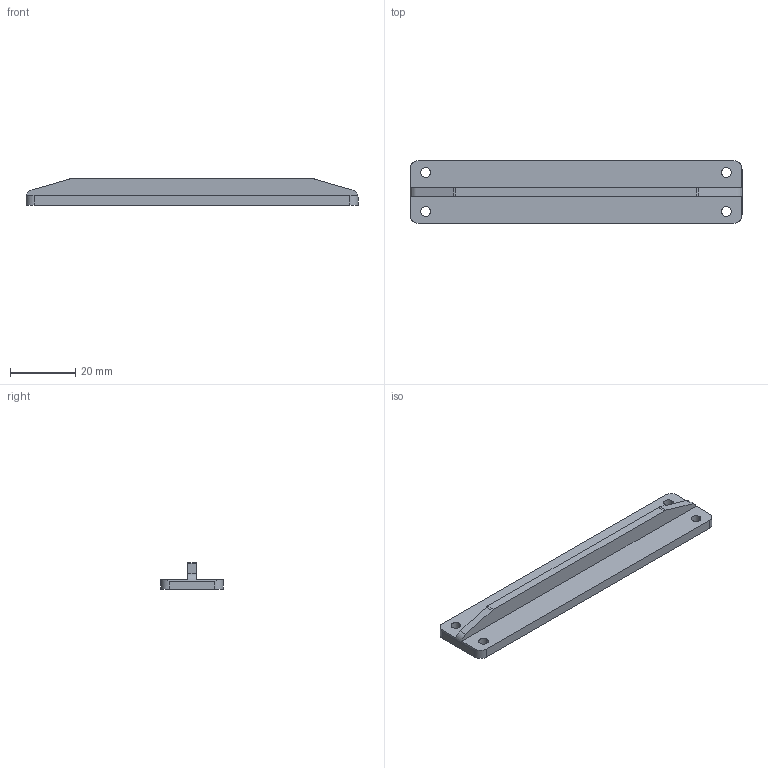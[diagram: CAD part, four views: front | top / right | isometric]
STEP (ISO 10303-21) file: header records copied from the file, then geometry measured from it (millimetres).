
FILE_DESCRIPTION (( 'STEP AP203' ), '1' );
FILE_NAME ('Touchscreen_Bracket.STEP', '2026-01-29T02:19:01', ( '' ), ( '' ), 'SwSTEP 2.0', 'SolidWorks 2019', '' );
FILE_SCHEMA (( 'CONFIG_CONTROL_DESIGN' ));
Length unit declared in the file: inch
Products named in the file (1): Touchscreen_Bracket
Bounding box: 101.6 x 19.05 x 8.08 mm (x, y, z)
Volume: 6878.3 mm3; surface area: 5555.4 mm2
Topology: 1 solids, 1 shells, 28 faces, 78 edges, 52 vertices
Faces by surface type: cylinder 16, plane 12
Entity records: 1009 total; most frequent: CARTESIAN_POINT 171, DIRECTION 164, ORIENTED_EDGE 156, EDGE_CURVE 78, AXIS2_PLACEMENT_3D 61, VERTEX_POINT 52, VECTOR 42, LINE 42
